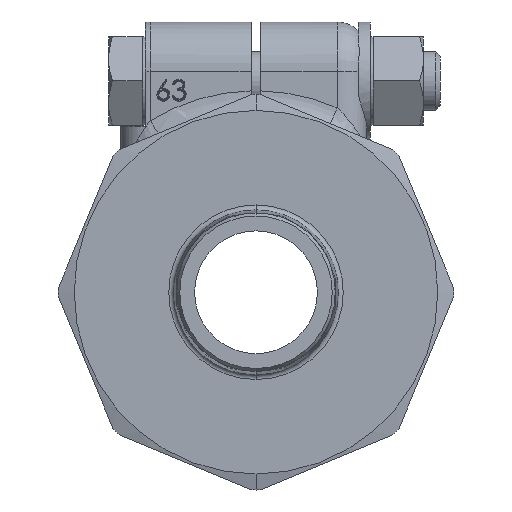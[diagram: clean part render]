
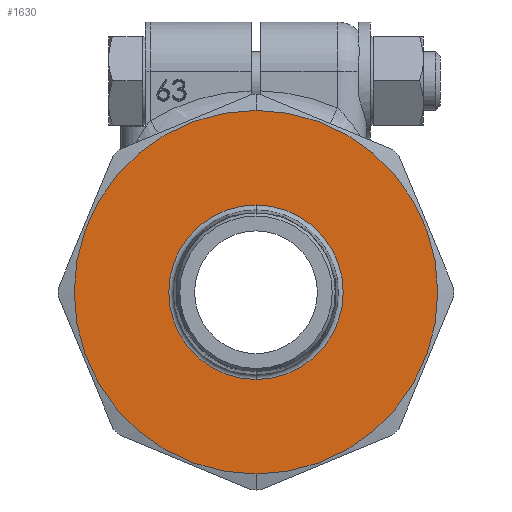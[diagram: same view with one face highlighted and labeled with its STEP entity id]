
A CAD part, front view. The second image highlights one B-rep face of the part: STEP entity #1630.
In plain terms, the highlighted planar face has unit normal (0, -1, 0).
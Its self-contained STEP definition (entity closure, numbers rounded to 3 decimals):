
#480 = AXIS2_PLACEMENT_3D ( 'NONE', #7723, #7731, #7732 ) ;
#1503 = EDGE_LOOP ( 'NONE', ( #2102, #2098 ) ) ;
#1630 = ADVANCED_FACE ( 'NONE', ( #7727, #7728 ), #7729, .T. ) ;
#1767 = EDGE_CURVE ( 'NONE', #10464, #10469, #6891, .T. ) ;
#1874 = EDGE_CURVE ( 'NONE', #10288, #10450, #3381, .T. ) ;
#2098 = ORIENTED_EDGE ( 'NONE', *, *, #1874, .T. ) ;
#2101 = ORIENTED_EDGE ( 'NONE', *, *, #1767, .T. ) ;
#2102 = ORIENTED_EDGE ( 'NONE', *, *, #5717, .T. ) ;
#2104 = ORIENTED_EDGE ( 'NONE', *, *, #2380, .T. ) ;
#2380 = EDGE_CURVE ( 'NONE', #10469, #10464, #11598, .T. ) ;
#2889 = CARTESIAN_POINT ( 'NONE',  ( 0., 22., 0. ) ) ;
#2890 = DIRECTION ( 'NONE',  ( 0., 1., 0. ) ) ;
#2891 = DIRECTION ( 'NONE',  ( 0., 0., -1. ) ) ;
#3302 = CIRCLE ( 'NONE', #3304, 37. ) ;
#3304 = AXIS2_PLACEMENT_3D ( 'NONE', #9406, #9407, #9408 ) ;
#3375 = AXIS2_PLACEMENT_3D ( 'NONE', #11086, #11087, #11088 ) ;
#3381 = CIRCLE ( 'NONE', #3375, 37. ) ;
#3511 = EDGE_LOOP ( 'NONE', ( #2104, #2101 ) ) ;
#5100 = CARTESIAN_POINT ( 'NONE',  ( 0., 22., -37. ) ) ;
#5274 = CARTESIAN_POINT ( 'NONE',  ( 0., 22., 37. ) ) ;
#5288 = CARTESIAN_POINT ( 'NONE',  ( 0., 22., 17.756 ) ) ;
#5293 = CARTESIAN_POINT ( 'NONE',  ( 0., 22., -17.756 ) ) ;
#5717 = EDGE_CURVE ( 'NONE', #10450, #10288, #3302, .T. ) ;
#6891 = CIRCLE ( 'NONE', #6901, 17.756 ) ;
#6901 = AXIS2_PLACEMENT_3D ( 'NONE', #2889, #2890, #2891 ) ;
#7723 = CARTESIAN_POINT ( 'NONE',  ( 16.787, 22., 0. ) ) ;
#7727 = FACE_BOUND ( 'NONE', #3511, .T. ) ;
#7728 = FACE_OUTER_BOUND ( 'NONE', #1503, .T. ) ;
#7729 = PLANE ( 'NONE',  #480 ) ;
#7731 = DIRECTION ( 'NONE',  ( 0., -1., 0. ) ) ;
#7732 = DIRECTION ( 'NONE',  ( 0., 0., -1. ) ) ;
#9406 = CARTESIAN_POINT ( 'NONE',  ( 0., 22., 0. ) ) ;
#9407 = DIRECTION ( 'NONE',  ( 0., -1., 0. ) ) ;
#9408 = DIRECTION ( 'NONE',  ( 0., 0., -1. ) ) ;
#10288 = VERTEX_POINT ( 'NONE', #5100 ) ;
#10450 = VERTEX_POINT ( 'NONE', #5274 ) ;
#10464 = VERTEX_POINT ( 'NONE', #5288 ) ;
#10469 = VERTEX_POINT ( 'NONE', #5293 ) ;
#11086 = CARTESIAN_POINT ( 'NONE',  ( 0., 22., 0. ) ) ;
#11087 = DIRECTION ( 'NONE',  ( 0., -1., 0. ) ) ;
#11088 = DIRECTION ( 'NONE',  ( 0., 0., -1. ) ) ;
#11598 = CIRCLE ( 'NONE', #11602, 17.756 ) ;
#11602 = AXIS2_PLACEMENT_3D ( 'NONE', #12362, #12363, #12364 ) ;
#12362 = CARTESIAN_POINT ( 'NONE',  ( 0., 22., 0. ) ) ;
#12363 = DIRECTION ( 'NONE',  ( 0., 1., 0. ) ) ;
#12364 = DIRECTION ( 'NONE',  ( 0., 0., -1. ) ) ;
